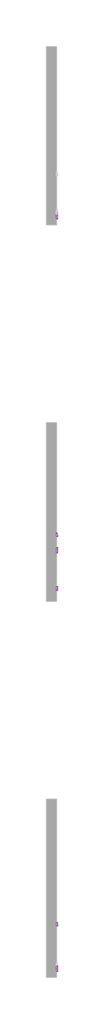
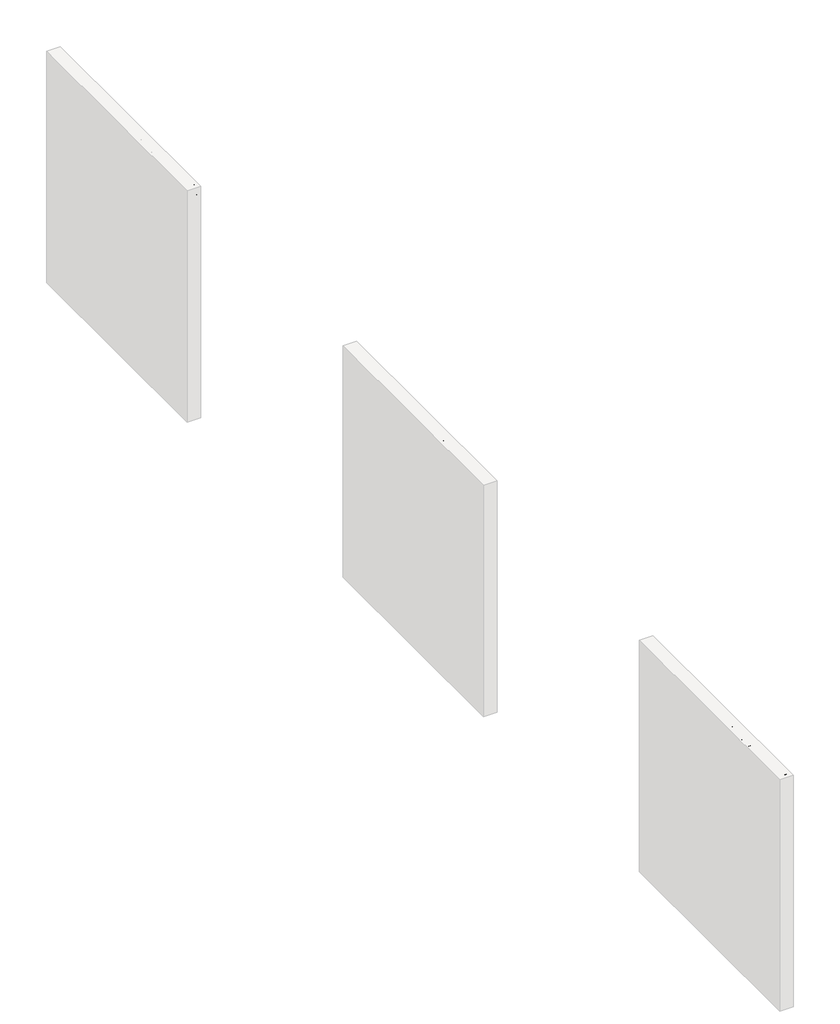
# One storey, part 5 of 9: 6 proxies.
"""IFC4 building model written with IfcOpenShell, lengths in millimetres."""

from ifc_helpers import new_model, si_unit, frame, origin, place, context, project, spatial, polyline, outline, extrude, element, save

model = new_model("IFC4")

# Units and contexts
model_context = context("Model", 3, world=origin())
ifc_project = project(units=[si_unit("LENGTHUNIT", "METRE", prefix="MILLI")], contexts=[model_context])

# Site, building, storey
site = spatial("IfcSite", under=ifc_project)
building = spatial("IfcBuilding", under=site)
storey = spatial("IfcBuildingStorey", under=building, Name="PORTOBELLO - SHOWROOM", Elevation=0.0)

# Proxies
placement = place(None, origin())
element("IfcBuildingElementProxy", 1, Name="10mm Arial", ObjectType="10mm Arial", at=placement, inside=storey, context=model_context, shape_type="SweptSolid", body=[
    extrude(outline(polyline([(3760.313312, 2567.3783476), (3763.6610381, 2589.5922887), (3773.7042166, 2606.3983645), (3789.0387644, 2616.9749719), (3808.2605987, 2620.5005077), (3821.4369055, 2618.8450387), (3833.2520489, 2613.8786317), (3843.0622354, 2605.9507747), (3850.2236716, 2595.4109556), (3854.6014673, 2582.7680777), (3856.0607326, 2568.5310445), (3854.5248253, 2554.1039389), (3849.9171033, 2541.2832514), (3842.4920183, 2530.7250381), (3832.5040222, 2523.0853553), (3820.7900463, 2518.4500422), (3808.1870223, 2516.9049378), (3794.8083804, 2518.6125234), (3782.9257919, 2523.7352802), (3773.1401309, 2531.81029), (3766.0522711, 2542.3746346), (3760.313312, 2567.3783476)]), holes=[polyline([(3772.8703507, 2567.2557202), (3775.3811454, 2551.5410277), (3782.9135292, 2539.5664687), (3794.2350976, 2531.9880996), (3808.1134459, 2529.4619766), (3822.1941293, 2532.0126251), (3833.5340918, 2539.6645706), (3841.0112933, 2552.0070115), (3843.5036938, 2568.6291463), (3839.2362627, 2589.3531654), (3826.765063, 2603.0751638), (3808.3341751, 2607.9434689), (3794.8267745, 2605.5982212), (3783.3427249, 2598.562478), (3775.4884443, 2586.0452931), (3772.8703507, 2567.2557202)])]), frame((-17115.5080774, 0.0, 0.0), z_axis=(1.0, 0.0, 0.0), x_axis=(0.0, 1.0, 0.0)), (0.0, 0.0, 1.0), 20.0),
    extrude(outline(polyline([(3918.8459264, 2545.158275), (3931.4029652, 2543.5886452), (3927.9019549, 2532.420361), (3921.3229985, 2523.9805349), (3912.2853642, 2518.6738371), (3901.4083199, 2516.9049378), (3888.0511378, 2519.3728129), (3877.6063548, 2526.776438), (3870.8649172, 2538.7908508), (3868.6177714, 2555.0910889), (3872.4560068, 2575.949998), (3884.1546543, 2589.3531654), (3901.2366416, 2593.8168003), (3911.8469715, 2592.2839586), (3920.3297171, 2587.6854337), (3926.4150985, 2580.2664801), (3929.8333354, 2570.2723526), (3917.2762966, 2568.7027227), (3911.4514983, 2578.1082391), (3901.3347435, 2581.2597615), (3893.2198798, 2579.7085258), (3886.7788792, 2575.0548185), (3882.5758274, 2567.0472538), (3881.1748101, 2555.4344454), (3882.5451706, 2543.6652873), (3886.6562519, 2535.6301314), (3892.9807565, 2531.0040153), (3900.9913869, 2529.4619766), (3912.8249244, 2533.3124748), (3918.8459264, 2545.158275)])), frame((-17115.5080774, 0.0, 0.0), z_axis=(1.0, 0.0, 0.0), x_axis=(0.0, 1.0, 0.0)), (0.0, 0.0, 1.0), 20.0),
    extrude(outline(polyline([(3942.3903741, 2518.4745677), (3942.3903741, 2618.9308778), (3954.9474129, 2618.9308778), (3954.9474129, 2581.9955255), (3964.7392053, 2590.8614816), (3976.7996034, 2593.8168003), (3990.9017466, 2590.5917015), (3999.4611343, 2581.6766944), (4002.0363083, 2565.1710556), (4002.0363083, 2518.4745677), (3989.4792695, 2518.4745677), (3989.4792695, 2563.8712059), (3985.4816185, 2577.1149577), (3974.150853, 2581.2597615), (3963.8624199, 2578.4638583), (3956.9952893, 2570.8854892), (3954.9474129, 2557.6662629), (3954.9474129, 2518.4745677), (3942.3903741, 2518.4745677)])), frame((-17115.5080774, 0.0, 0.0), z_axis=(1.0, 0.0, 0.0), x_axis=(0.0, 1.0, 0.0)), (0.0, 0.0, 1.0), 20.0),
    extrude(outline(polyline([(4070.9528687, 2540.4493855), (4083.2646528, 2538.8797557), (4078.8286091, 2529.602998), (4071.7499464, 2522.6684224), (4062.1880802, 2518.345809), (4050.302426, 2516.9049378), (4035.5687521, 2519.391207), (4024.2318553, 2526.8500144), (4017.0029741, 2538.7969822), (4014.593347, 2554.7477324), (4017.0274996, 2571.2349771), (4024.3299572, 2583.5651553), (4035.5135698, 2591.253889), (4049.5911875, 2593.8168003), (4063.2304125, 2591.2600204), (4074.1289166, 2583.5896808), (4081.2750244, 2571.2840281), (4083.6570603, 2554.8213088), (4083.5834839, 2551.4367944), (4027.1503858, 2551.4367944), (4029.3239553, 2542.0374095), (4034.3731357, 2535.1273593), (4041.6602648, 2530.8783223), (4050.5476807, 2529.4619766), (4062.8594648, 2532.0862015), (4070.9528687, 2540.4493855)]), holes=[polyline([(4027.1503858, 2563.9938332), (4071.1000215, 2563.9938332), (4066.0723009, 2575.3736496), (4058.7514492, 2579.7882335), (4049.5421366, 2581.2597615), (4034.0788301, 2576.5631347), (4029.2135907, 2571.0724959), (4027.1503858, 2563.9938332)])]), frame((-17115.5080774, 0.0, 0.0), z_axis=(1.0, 0.0, 0.0), x_axis=(0.0, 1.0, 0.0)), (0.0, 0.0, 1.0), 20.0),
    extrude(outline(polyline([(4096.214099, 2518.4745677), (4096.214099, 2592.2471704), (4107.201508, 2592.2471704), (4107.201508, 2581.3333379), (4115.0006063, 2591.3887791), (4122.8487555, 2593.8168003), (4135.4548452, 2589.9417766), (4131.2609904, 2578.6845875), (4122.4318226, 2581.2597615), (4115.3317001, 2578.7826894), (4110.8067515, 2571.9155588), (4108.7711378, 2557.24933), (4108.7711378, 2518.4745677), (4096.214099, 2518.4745677)])), frame((-17115.5080774, 0.0, 0.0), z_axis=(1.0, 0.0, 0.0), x_axis=(0.0, 1.0, 0.0)), (0.0, 0.0, 1.0), 20.0),
    extrude(outline(polyline([(4184.1133704, 2518.4745677), (4184.1133704, 2618.9308778), (4205.6467299, 2618.9308778), (4226.2481216, 2548.1258565), (4230.4174509, 2533.3370003), (4234.9056112, 2549.3521298), (4255.1145955, 2618.9308778), (4276.7215313, 2618.9308778), (4276.7215313, 2518.4745677), (4264.1644926, 2518.4745677), (4264.1644926, 2606.373839), (4238.9277877, 2518.4745677), (4221.9316395, 2518.4745677), (4196.6704092, 2606.373839), (4196.6704092, 2518.4745677), (4184.1133704, 2518.4745677)])), frame((-17115.5080774, 0.0, 0.0), z_axis=(1.0, 0.0, 0.0), x_axis=(0.0, 1.0, 0.0)), (0.0, 0.0, 1.0), 20.0),
    extrude(outline(polyline([(-17095.5080774, 4309.6837581), (-17095.5080774, 4297.1267193), (-17115.5080774, 4297.1267193), (-17115.5080774, 4309.6837581), (-17095.5080774, 4309.6837581)])), frame((0.0, 0.0, 2606.373839), z_axis=(0.0, 0.0, 1.0), x_axis=(1.0, 0.0, 0.0)), (0.0, 0.0, 1.0), 12.5570388),
    extrude(outline(polyline([(-17095.5080774, 4309.6837581), (-17095.5080774, 4297.1267193), (-17115.5080774, 4297.1267193), (-17115.5080774, 4309.6837581), (-17095.5080774, 4309.6837581)])), frame((0.0, 0.0, 2518.4745677), z_axis=(0.0, 0.0, 1.0), x_axis=(1.0, 0.0, 0.0)), (0.0, 0.0, 1.0), 73.7726028),
    extrude(outline(polyline([(4320.671167, 2518.4745677), (4347.5020272, 2555.5815982), (4322.2407969, 2592.2471704), (4337.2994332, 2592.2471704), (4349.48859, 2574.5643092), (4355.2030236, 2566.2501761), (4360.1571678, 2573.0682557), (4374.0385818, 2592.2471704), (4389.1462691, 2592.2471704), (4362.6097145, 2555.5570728), (4388.1652504, 2518.4745677), (4373.0820886, 2518.4745677), (4357.6800957, 2540.792742), (4354.8841926, 2544.8884949), (4335.7788543, 2518.4745677), (4320.671167, 2518.4745677)])), frame((-17115.5080774, 0.0, 0.0), z_axis=(1.0, 0.0, 0.0), x_axis=(0.0, 1.0, 0.0)), (0.0, 0.0, 1.0), 20.0),
])
element("IfcBuildingElementProxy", 2, Name="10mm Arial", ObjectType="10mm Arial", at=placement, inside=storey, context=model_context, shape_type="SweptSolid", body=[
    extrude(outline(polyline([(9490.1362791, 2518.4745677), (9490.1362791, 2606.373839), (9457.1740523, 2606.373839), (9457.1740523, 2618.9308778), (9535.6555446, 2618.9308778), (9535.6555446, 2606.373839), (9502.6933178, 2606.373839), (9502.6933178, 2518.4745677), (9490.1362791, 2518.4745677)])), frame((-17115.5080774, 0.0, 0.0), z_axis=(1.0, 0.0, 0.0), x_axis=(0.0, 1.0, 0.0)), (0.0, 0.0, 1.0), 20.0),
    extrude(outline(polyline([(9599.8632155, 2540.4493855), (9612.1749996, 2538.8797557), (9607.7389559, 2529.602998), (9600.6602931, 2522.6684224), (9591.0984269, 2518.345809), (9579.2127728, 2516.9049378), (9564.4790989, 2519.391207), (9553.1422021, 2526.8500144), (9545.9133209, 2538.7969822), (9543.5036938, 2554.7477324), (9545.9378464, 2571.2349771), (9553.240304, 2583.5651553), (9564.4239166, 2591.253889), (9578.5015343, 2593.8168003), (9592.1407593, 2591.2600204), (9603.0392634, 2583.5896808), (9610.1853711, 2571.2840281), (9612.567407, 2554.8213088), (9612.4938306, 2551.4367944), (9556.0607326, 2551.4367944), (9558.234302, 2542.0374095), (9563.2834824, 2535.1273593), (9570.5706116, 2530.8783223), (9579.4580275, 2529.4619766), (9591.7698116, 2532.0862015), (9599.8632155, 2540.4493855)]), holes=[polyline([(9556.0607326, 2563.9938332), (9600.0103683, 2563.9938332), (9594.9826477, 2575.3736496), (9587.661796, 2579.7882335), (9578.4524834, 2581.2597615), (9562.9891768, 2576.5631347), (9558.1239374, 2571.0724959), (9556.0607326, 2563.9938332)])]), frame((-17115.5080774, 0.0, 0.0), z_axis=(1.0, 0.0, 0.0), x_axis=(0.0, 1.0, 0.0)), (0.0, 0.0, 1.0), 20.0),
    extrude(outline(polyline([(9625.1244458, 2518.4745677), (9625.1244458, 2592.2471704), (9636.1118547, 2592.2471704), (9636.1118547, 2581.3333379), (9643.910953, 2591.3887791), (9651.7591023, 2593.8168003), (9664.365192, 2589.9417766), (9660.1713372, 2578.6845875), (9651.3421693, 2581.2597615), (9644.2420468, 2578.7826894), (9639.7170983, 2571.9155588), (9637.6814846, 2557.24933), (9637.6814846, 2518.4745677), (9625.1244458, 2518.4745677)])), frame((-17115.5080774, 0.0, 0.0), z_axis=(1.0, 0.0, 0.0), x_axis=(0.0, 1.0, 0.0)), (0.0, 0.0, 1.0), 20.0),
    extrude(outline(polyline([(9672.2133412, 2518.4745677), (9672.2133412, 2592.2471704), (9683.2007501, 2592.2471704), (9683.2007501, 2581.3333379), (9690.9998484, 2591.3887791), (9698.8479977, 2593.8168003), (9711.4540874, 2589.9417766), (9707.2602326, 2578.6845875), (9698.4310647, 2581.2597615), (9691.3309422, 2578.7826894), (9686.8059937, 2571.9155588), (9684.77038, 2557.24933), (9684.77038, 2518.4745677), (9672.2133412, 2518.4745677)])), frame((-17115.5080774, 0.0, 0.0), z_axis=(1.0, 0.0, 0.0), x_axis=(0.0, 1.0, 0.0)), (0.0, 0.0, 1.0), 20.0),
    extrude(outline(polyline([(9766.391132, 2527.8923467), (9754.2142379, 2519.3820099), (9740.7620196, 2516.9049378), (9730.2681857, 2518.3948599), (9722.5273354, 2522.8646261), (9717.7540665, 2529.6520489), (9716.1629769, 2538.0949407), (9718.5664726, 2548.0277546), (9724.8817802, 2555.2382417), (9733.6741599, 2559.3585201), (9744.5389415, 2561.246981), (9766.3175556, 2565.563463), (9766.391132, 2568.3593662), (9762.9330412, 2577.6299925), (9749.0516273, 2581.2597615), (9736.3474357, 2578.8440031), (9730.2896455, 2570.2723526), (9717.7326067, 2571.8419824), (9723.1649975, 2584.1047156), (9734.1033555, 2591.2906772), (9750.670308, 2593.8168003), (9765.8883599, 2591.5849828), (9774.4845359, 2585.9809138), (9778.3350341, 2577.4583142), (9778.9481707, 2566.4709053), (9778.9481707, 2550.8481832), (9779.5858329, 2529.0327809), (9782.0874304, 2518.4745677), (9769.5303917, 2518.4745677), (9766.391132, 2527.8923467)]), holes=[polyline([(9766.391132, 2553.0064243), (9746.1330968, 2549.1559261), (9735.3296288, 2547.1203124), (9730.4367983, 2543.8093744), (9728.7200157, 2538.9778575), (9732.4601493, 2532.1843033), (9743.4352955, 2529.4619766), (9756.139487, 2532.4663462), (9764.3309928, 2539.738147), (9766.3175556, 2549.4502317), (9766.391132, 2553.0064243)])]), frame((-17115.5080774, 0.0, 0.0), z_axis=(1.0, 0.0, 0.0), x_axis=(0.0, 1.0, 0.0)), (0.0, 0.0, 1.0), 20.0),
    extrude(outline(polyline([(9843.3029944, 2545.158275), (9855.8600332, 2543.5886452), (9852.3590229, 2532.420361), (9845.7800665, 2523.9805349), (9836.7424322, 2518.6738371), (9825.8653879, 2516.9049378), (9812.5082057, 2519.3728129), (9802.0634228, 2526.776438), (9795.3219852, 2538.7908508), (9793.0748393, 2555.0910889), (9796.9130748, 2575.949998), (9808.6117223, 2589.3531654), (9825.6937096, 2593.8168003), (9836.3040395, 2592.2839586), (9844.7867851, 2587.6854337), (9850.8721665, 2580.2664801), (9854.2904033, 2570.2723526), (9841.7333646, 2568.7027227), (9835.9085663, 2578.1082391), (9825.7918115, 2581.2597615), (9817.6769478, 2579.7085258), (9811.2359472, 2575.0548185), (9807.0328954, 2567.0472538), (9805.6318781, 2555.4344454), (9807.0022385, 2543.6652873), (9811.1133198, 2535.6301314), (9817.4378245, 2531.0040153), (9825.4484549, 2529.4619766), (9837.2819924, 2533.3124748), (9843.3029944, 2545.158275)])), frame((-17115.5080774, 0.0, 0.0), z_axis=(1.0, 0.0, 0.0), x_axis=(0.0, 1.0, 0.0)), (0.0, 0.0, 1.0), 20.0),
    extrude(outline(polyline([(9863.7081824, 2555.360869), (9866.4243778, 2573.1479635), (9874.572964, 2585.64982), (9884.6406679, 2591.7750552), (9896.6949347, 2593.8168003), (9909.8865699, 2591.3305311), (9920.4233233, 2583.8717237), (9927.3303078, 2572.0289891), (9929.632636, 2556.3909386), (9925.5614085, 2534.0482388), (9913.7033456, 2521.4053609), (9896.6949347, 2516.9049378), (9883.3438839, 2519.3820099), (9872.8193932, 2526.8132262), (9865.9859851, 2538.9042811), (9863.7081824, 2555.360869)]), holes=[polyline([(9876.2652212, 2555.3853945), (9877.7183551, 2544.0209065), (9882.0777567, 2535.924437), (9888.638319, 2531.0775917), (9896.6949347, 2529.4619766), (9904.7147622, 2531.0867887), (9911.2630617, 2535.9612252), (9915.6224633, 2544.1649937), (9917.0755972, 2555.777802), (9915.6132663, 2566.8111961), (9911.2262735, 2574.7973011), (9904.6687769, 2579.6441464), (9896.6949347, 2581.2597615), (9888.638319, 2579.6502778), (9882.0777567, 2574.8218266), (9877.7183551, 2566.7437511), (9876.2652212, 2555.3853945)])]), frame((-17115.5080774, 0.0, 0.0), z_axis=(1.0, 0.0, 0.0), x_axis=(0.0, 1.0, 0.0)), (0.0, 0.0, 1.0), 20.0),
    extrude(outline(polyline([(9970.443012, 2528.9469418), (9972.0126418, 2518.1066857), (9962.6193882, 2516.9049378), (9952.0979631, 2518.9896025), (9946.8495133, 2524.4587815), (9945.3289344, 2538.7080774), (9945.3289344, 2579.6901317), (9935.9111553, 2579.6901317), (9935.9111553, 2592.2471704), (9945.3289344, 2592.2471704), (9945.3289344, 2610.1752863), (9957.8859732, 2617.5574517), (9957.8859732, 2592.2471704), (9970.443012, 2592.2471704), (9970.443012, 2579.6901317), (9957.8859732, 2579.6901317), (9957.8859732, 2539.0759594), (9958.5481608, 2532.6012363), (9960.6941391, 2530.3081052), (9964.973833, 2529.4619766), (9970.443012, 2528.9469418)])), frame((-17115.5080774, 0.0, 0.0), z_axis=(1.0, 0.0, 0.0), x_axis=(0.0, 1.0, 0.0)), (0.0, 0.0, 1.0), 20.0),
    extrude(outline(polyline([(10030.0889461, 2527.8923467), (10017.9120521, 2519.3820099), (10004.4598338, 2516.9049378), (9993.9659999, 2518.3948599), (9986.2251496, 2522.8646261), (9981.4518807, 2529.6520489), (9979.860791, 2538.0949407), (9982.2642867, 2548.0277546), (9988.5795943, 2555.2382417), (9997.371974, 2559.3585201), (10008.2367556, 2561.246981), (10030.0153697, 2565.563463), (10030.0889461, 2568.3593662), (10026.6308554, 2577.6299925), (10012.7494414, 2581.2597615), (10000.0452498, 2578.8440031), (9993.9874596, 2570.2723526), (9981.4304209, 2571.8419824), (9986.8628117, 2584.1047156), (9997.8011697, 2591.2906772), (10014.3681222, 2593.8168003), (10029.586174, 2591.5849828), (10038.18235, 2585.9809138), (10042.0328482, 2577.4583142), (10042.6459849, 2566.4709053), (10042.6459849, 2550.8481832), (10043.283647, 2529.0327809), (10045.7852446, 2518.4745677), (10033.2282058, 2518.4745677), (10030.0889461, 2527.8923467)]), holes=[polyline([(10030.0889461, 2553.0064243), (10009.8309109, 2549.1559261), (9999.027443, 2547.1203124), (9994.1346124, 2543.8093744), (9992.4178298, 2538.9778575), (9996.1579634, 2532.1843033), (10007.1331096, 2529.4619766), (10019.8373012, 2532.4663462), (10028.0288069, 2539.738147), (10030.0153697, 2549.4502317), (10030.0889461, 2553.0064243)])]), frame((-17115.5080774, 0.0, 0.0), z_axis=(1.0, 0.0, 0.0), x_axis=(0.0, 1.0, 0.0)), (0.0, 0.0, 1.0), 20.0),
    extrude(outline(polyline([(10100.7222892, 2518.4745677), (10100.7222892, 2618.9308778), (10122.2556486, 2618.9308778), (10142.8570404, 2548.1258565), (10147.0263696, 2533.3370003), (10151.51453, 2549.3521298), (10171.7235143, 2618.9308778), (10193.3304501, 2618.9308778), (10193.3304501, 2518.4745677), (10180.7734113, 2518.4745677), (10180.7734113, 2606.373839), (10155.5367065, 2518.4745677), (10138.5405583, 2518.4745677), (10113.279328, 2606.373839), (10113.279328, 2518.4745677), (10100.7222892, 2518.4745677)])), frame((-17115.5080774, 0.0, 0.0), z_axis=(1.0, 0.0, 0.0), x_axis=(0.0, 1.0, 0.0)), (0.0, 0.0, 1.0), 20.0),
    extrude(outline(polyline([(-17095.5080774, 10226.2926769), (-17095.5080774, 10213.7356381), (-17115.5080774, 10213.7356381), (-17115.5080774, 10226.2926769), (-17095.5080774, 10226.2926769)])), frame((0.0, 0.0, 2518.4745677), z_axis=(0.0, 0.0, 1.0), x_axis=(1.0, 0.0, 0.0)), (0.0, 0.0, 1.0), 73.7726028),
    extrude(outline(polyline([(-17095.5080774, 10226.2926769), (-17095.5080774, 10213.7356381), (-17115.5080774, 10213.7356381), (-17115.5080774, 10226.2926769), (-17095.5080774, 10226.2926769)])), frame((0.0, 0.0, 2606.373839), z_axis=(0.0, 0.0, 1.0), x_axis=(1.0, 0.0, 0.0)), (0.0, 0.0, 1.0), 12.5570388),
    extrude(outline(polyline([(10237.2800858, 2518.4745677), (10264.110946, 2555.5815982), (10238.8497156, 2592.2471704), (10253.908352, 2592.2471704), (10266.0975087, 2574.5643092), (10271.8119424, 2566.2501761), (10276.7660866, 2573.0682557), (10290.6475006, 2592.2471704), (10305.7551878, 2592.2471704), (10279.2186332, 2555.5570728), (10304.7741692, 2518.4745677), (10289.6910074, 2518.4745677), (10274.2890145, 2540.792742), (10271.4931113, 2544.8884949), (10252.3877731, 2518.4745677), (10237.2800858, 2518.4745677)])), frame((-17115.5080774, 0.0, 0.0), z_axis=(1.0, 0.0, 0.0), x_axis=(0.0, 1.0, 0.0)), (0.0, 0.0, 1.0), 20.0),
])
element("IfcBuildingElementProxy", 3, Name="10mm Arial", ObjectType="10mm Arial", at=placement, inside=storey, context=model_context, shape_type="SweptSolid", body=[
    extrude(outline(polyline([(9461.8829418, 2408.5886452), (9474.4399806, 2410.158275), (9480.0808379, 2398.1775847), (9490.7739412, 2394.4619766), (9500.939747, 2396.8532096), (9507.831403, 2403.2420935), (9511.9394186, 2414.1559261), (9513.7543031, 2428.7240531), (9513.6807267, 2431.1765997), (9503.6375483, 2421.6607188), (9489.8664989, 2418.0064243), (9478.4161718, 2420.2382417), (9468.8849625, 2426.933694), (9462.4562246, 2437.2773095), (9460.313312, 2450.4536163), (9462.5604578, 2464.0652501), (9469.3018954, 2474.7338279), (9479.4278473, 2481.6316153), (9491.8285362, 2483.9308778), (9509.7198639, 2478.682428), (9522.031648, 2463.7218935), (9526.2377655, 2435.6157091), (9522.0439108, 2405.1182917), (9516.8291835, 2395.1272299), (9509.5727111, 2387.8401007), (9500.5871934, 2383.3887285), (9490.18533, 2381.9049378), (9479.4493071, 2383.655443), (9470.883788, 2388.9069585), (9464.8934428, 2397.3283905), (9461.8829418, 2408.5886452)]), holes=[polyline([(9513.6807267, 2450.7479218), (9512.3256947, 2459.2582587), (9508.2605987, 2465.8065582), (9501.9514225, 2469.9820188), (9493.8641499, 2471.373839), (9485.4764404, 2469.8747199), (9478.7564627, 2465.3773625), (9474.3418787, 2458.4949035), (9472.8703507, 2449.8404796), (9474.262171, 2442.0812352), (9478.4376316, 2435.9222774), (9484.9920625, 2431.9031666), (9493.5207934, 2430.563463), (9508.0030813, 2435.9222774), (9512.2613154, 2442.3080957), (9513.6807267, 2450.7479218)])]), frame((-17115.5080774, 0.0, 0.0), z_axis=(1.0, 0.0, 0.0), x_axis=(0.0, 1.0, 0.0)), (0.0, 0.0, 1.0), 20.0),
    extrude(outline(polyline([(9532.5162849, 2383.4745677), (9559.3471451, 2420.5815982), (9534.0859147, 2457.2471704), (9549.1445511, 2457.2471704), (9561.3337079, 2439.5643092), (9567.0481415, 2431.2501761), (9572.0022857, 2438.0682557), (9585.8836997, 2457.2471704), (9600.9913869, 2457.2471704), (9574.4548323, 2420.5570728), (9600.0103683, 2383.4745677), (9584.9272065, 2383.4745677), (9569.5252136, 2405.792742), (9566.7293104, 2409.8884949), (9547.6239722, 2383.4745677), (9532.5162849, 2383.4745677)])), frame((-17115.5080774, 0.0, 0.0), z_axis=(1.0, 0.0, 0.0), x_axis=(0.0, 1.0, 0.0)), (0.0, 0.0, 1.0), 20.0),
    extrude(outline(polyline([(9607.8585175, 2410.158275), (9620.4155563, 2411.7279049), (9627.3440005, 2398.5086785), (9640.3057095, 2394.4619766), (9648.9141482, 2395.8537968), (9655.5605496, 2400.0292574), (9661.2259323, 2413.8125695), (9655.6096005, 2426.798804), (9641.3357791, 2431.9368892), (9632.5311367, 2430.563463), (9633.9290882, 2443.1205018), (9635.9401765, 2442.973349), (9650.1894724, 2446.5785926), (9654.9351502, 2451.152592), (9656.5170427, 2457.6641034), (9651.9307805, 2467.4865526), (9640.1095058, 2471.373839), (9628.1410782, 2467.4497644), (9621.9851861, 2455.6775406), (9609.4281474, 2457.2471704), (9613.1253614, 2468.5227536), (9619.7043178, 2476.9411199), (9628.7051639, 2482.1834383), (9639.6680474, 2483.9308778), (9654.8125228, 2480.4850498), (9665.4075243, 2471.0672707), (9669.0740815, 2458.3998673), (9665.5914653, 2446.8238472), (9655.2907694, 2438.5097141), (9668.9759796, 2429.9258009), (9673.782971, 2413.5918403), (9671.3794753, 2401.3536326), (9664.1689882, 2391.1265132), (9653.2858125, 2384.2103317), (9639.8642511, 2381.9049378), (9627.7241453, 2383.8731065), (9617.8403823, 2389.7776125), (9610.9671204, 2398.8091155), (9607.8585175, 2410.158275)])), frame((-17115.5080774, 0.0, 0.0), z_axis=(1.0, 0.0, 0.0), x_axis=(0.0, 1.0, 0.0)), (0.0, 0.0, 1.0), 20.0),
    extrude(outline(polyline([(9684.77038, 2469.8042092), (9684.77038, 2482.361248), (9750.6948335, 2482.361248), (9750.6948335, 2472.2077049), (9731.9941654, 2445.1929037), (9717.6835558, 2410.7714117), (9713.0237172, 2383.4745677), (9700.4666784, 2383.4745677), (9705.4576108, 2411.8014813), (9719.1550838, 2443.8194776), (9738.1377947, 2469.8042092), (9684.77038, 2469.8042092)])), frame((-17115.5080774, 0.0, 0.0), z_axis=(1.0, 0.0, 0.0), x_axis=(0.0, 1.0, 0.0)), (0.0, 0.0, 1.0), 20.0),
])
element("IfcBuildingElementProxy", 4, Name="10mm Arial", ObjectType="10mm Arial", at=placement, inside=storey, context=model_context, shape_type="SweptSolid", body=[
    extrude(outline(polyline([(15160.313312, 2567.3783476), (15163.6610381, 2589.5922887), (15173.7042166, 2606.3983645), (15189.0387644, 2616.9749719), (15208.2605987, 2620.5005077), (15221.4369055, 2618.8450387), (15233.2520489, 2613.8786317), (15243.0622354, 2605.9507747), (15250.2236716, 2595.4109556), (15254.6014673, 2582.7680777), (15256.0607326, 2568.5310445), (15254.5248253, 2554.1039389), (15249.9171033, 2541.2832514), (15242.4920183, 2530.7250381), (15232.5040222, 2523.0853553), (15220.7900463, 2518.4500422), (15208.1870223, 2516.9049378), (15194.8083804, 2518.6125234), (15182.9257919, 2523.7352802), (15173.1401309, 2531.81029), (15166.0522711, 2542.3746346), (15160.313312, 2567.3783476)]), holes=[polyline([(15172.8703507, 2567.2557202), (15175.3811454, 2551.5410277), (15182.9135292, 2539.5664687), (15194.2350976, 2531.9880996), (15208.1134459, 2529.4619766), (15222.1941293, 2532.0126251), (15233.5340918, 2539.6645706), (15241.0112933, 2552.0070115), (15243.5036938, 2568.6291463), (15239.2362627, 2589.3531654), (15226.765063, 2603.0751638), (15208.3341751, 2607.9434689), (15194.8267745, 2605.5982212), (15183.3427249, 2598.562478), (15175.4884443, 2586.0452931), (15172.8703507, 2567.2557202)])]), frame((-17115.5080774, 0.0, 0.0), z_axis=(1.0, 0.0, 0.0), x_axis=(0.0, 1.0, 0.0)), (0.0, 0.0, 1.0), 20.0),
    extrude(outline(polyline([(-17095.5080774, 15284.3140698), (-17095.5080774, 15271.7570311), (-17115.5080774, 15271.7570311), (-17115.5080774, 15284.3140698), (-17095.5080774, 15284.3140698)])), frame((0.0, 0.0, 2518.4745677), z_axis=(0.0, 0.0, 1.0), x_axis=(1.0, 0.0, 0.0)), (0.0, 0.0, 1.0), 100.4563101),
    extrude(outline(polyline([(-17095.5080774, 15315.7066667), (-17095.5080774, 15303.149628), (-17115.5080774, 15303.149628), (-17115.5080774, 15315.7066667), (-17095.5080774, 15315.7066667)])), frame((0.0, 0.0, 2518.4745677), z_axis=(0.0, 0.0, 1.0), x_axis=(1.0, 0.0, 0.0)), (0.0, 0.0, 1.0), 73.7726028),
    extrude(outline(polyline([(-17095.5080774, 15315.7066667), (-17095.5080774, 15303.149628), (-17115.5080774, 15303.149628), (-17115.5080774, 15315.7066667), (-17095.5080774, 15315.7066667)])), frame((0.0, 0.0, 2606.373839), z_axis=(0.0, 0.0, 1.0), x_axis=(1.0, 0.0, 0.0)), (0.0, 0.0, 1.0), 12.5570388),
    extrude(outline(polyline([(15352.69107, 2518.4745677), (15326.6940757, 2592.2471704), (15339.962353, 2592.2471704), (15355.7077024, 2548.0522801), (15360.4411174, 2533.1898475), (15365.0764305, 2547.2184142), (15380.8953563, 2592.2471704), (15394.188159, 2592.2471704), (15368.5590467, 2518.4745677), (15352.69107, 2518.4745677)])), frame((-17115.5080774, 0.0, 0.0), z_axis=(1.0, 0.0, 0.0), x_axis=(0.0, 1.0, 0.0)), (0.0, 0.0, 1.0), 20.0),
    extrude(outline(polyline([(15456.8262001, 2540.4493855), (15469.1379842, 2538.8797557), (15464.7019405, 2529.602998), (15457.6232777, 2522.6684224), (15448.0614116, 2518.345809), (15436.1757574, 2516.9049378), (15421.4420835, 2519.391207), (15410.1051867, 2526.8500144), (15402.8763055, 2538.7969822), (15400.4666784, 2554.7477324), (15402.900831, 2571.2349771), (15410.2032886, 2583.5651553), (15421.3869012, 2591.253889), (15435.4645189, 2593.8168003), (15449.1037439, 2591.2600204), (15460.002248, 2583.5896808), (15467.1483557, 2571.2840281), (15469.5303917, 2554.8213088), (15469.4568153, 2551.4367944), (15413.0237172, 2551.4367944), (15415.1972867, 2542.0374095), (15420.246467, 2535.1273593), (15427.5335962, 2530.8783223), (15436.4210121, 2529.4619766), (15448.7327962, 2532.0862015), (15456.8262001, 2540.4493855)]), holes=[polyline([(15413.0237172, 2563.9938332), (15456.9733529, 2563.9938332), (15451.9456323, 2575.3736496), (15444.6247806, 2579.7882335), (15435.415468, 2581.2597615), (15419.9521614, 2576.5631347), (15415.0869221, 2571.0724959), (15413.0237172, 2563.9938332)])]), frame((-17115.5080774, 0.0, 0.0), z_axis=(1.0, 0.0, 0.0), x_axis=(0.0, 1.0, 0.0)), (0.0, 0.0, 1.0), 20.0),
    extrude(outline(polyline([(15522.8978064, 2518.4745677), (15522.8978064, 2618.9308778), (15544.4311659, 2618.9308778), (15565.0325576, 2548.1258565), (15569.2018869, 2533.3370003), (15573.6900472, 2549.3521298), (15593.8990315, 2618.9308778), (15615.5059673, 2618.9308778), (15615.5059673, 2518.4745677), (15602.9489286, 2518.4745677), (15602.9489286, 2606.373839), (15577.7122237, 2518.4745677), (15560.7160755, 2518.4745677), (15535.4548452, 2606.373839), (15535.4548452, 2518.4745677), (15522.8978064, 2518.4745677)])), frame((-17115.5080774, 0.0, 0.0), z_axis=(1.0, 0.0, 0.0), x_axis=(0.0, 1.0, 0.0)), (0.0, 0.0, 1.0), 20.0),
    extrude(outline(polyline([(-17095.5080774, 15648.4681941), (-17095.5080774, 15635.9111553), (-17115.5080774, 15635.9111553), (-17115.5080774, 15648.4681941), (-17095.5080774, 15648.4681941)])), frame((0.0, 0.0, 2518.4745677), z_axis=(0.0, 0.0, 1.0), x_axis=(1.0, 0.0, 0.0)), (0.0, 0.0, 1.0), 73.7726028),
    extrude(outline(polyline([(-17095.5080774, 15648.4681941), (-17095.5080774, 15635.9111553), (-17115.5080774, 15635.9111553), (-17115.5080774, 15648.4681941), (-17095.5080774, 15648.4681941)])), frame((0.0, 0.0, 2606.373839), z_axis=(0.0, 0.0, 1.0), x_axis=(1.0, 0.0, 0.0)), (0.0, 0.0, 1.0), 12.5570388),
    extrude(outline(polyline([(15659.455603, 2518.4745677), (15686.2864632, 2555.5815982), (15661.0252329, 2592.2471704), (15676.0838692, 2592.2471704), (15688.273026, 2574.5643092), (15693.9874596, 2566.2501761), (15698.9416039, 2573.0682557), (15712.8230178, 2592.2471704), (15727.9307051, 2592.2471704), (15701.3941505, 2555.5570728), (15726.9496864, 2518.4745677), (15711.8665246, 2518.4745677), (15696.4645317, 2540.792742), (15693.6686286, 2544.8884949), (15674.5632903, 2518.4745677), (15659.455603, 2518.4745677)])), frame((-17115.5080774, 0.0, 0.0), z_axis=(1.0, 0.0, 0.0), x_axis=(0.0, 1.0, 0.0)), (0.0, 0.0, 1.0), 20.0),
])
element("IfcBuildingElementProxy", 5, Name="10mm Arial Narrow", ObjectType="10mm Arial Narrow", at=placement, inside=storey, context=model_context, shape_type="SweptSolid", body=[
    extrude(outline(polyline([(4446.9277964, 2518.4745677), (4446.9277964, 2615.7916181), (4477.1676964, 2615.7916181), (4492.9130458, 2613.9767336), (4503.9985566, 2604.8164719), (4508.1433604, 2588.3721467), (4506.4173807, 2576.7041561), (4501.2394416, 2567.402873), (4491.8247282, 2561.314426), (4477.3884256, 2559.2849437), (4456.3455754, 2559.2849437), (4456.3455754, 2518.4745677), (4446.9277964, 2518.4745677)]), holes=[polyline([(4456.3455754, 2570.2723526), (4478.5411225, 2570.2723526), (4493.869539, 2574.6501483), (4498.7255813, 2587.857112), (4496.3343483, 2597.6795612), (4490.558601, 2603.2836303), (4478.3203933, 2604.8042092), (4456.3455754, 2604.8042092), (4456.3455754, 2570.2723526)])]), frame((-17115.5080774, 0.0, 0.0), z_axis=(1.0, 0.0, 0.0), x_axis=(0.0, 1.0, 0.0)), (0.0, 0.0, 1.0), 20.0),
    extrude(outline(polyline([(4515.9915096, 2553.7912392), (4517.8799705, 2569.8216971), (4523.5453532, 2581.3701261), (4532.104741, 2588.350687), (4542.675217, 2590.6775406), (4553.1230656, 2588.350687), (4561.7069789, 2581.3701261), (4567.445938, 2570.0056381), (4569.3589244, 2554.5270032), (4567.4796605, 2537.9447223), (4561.8418689, 2526.2123523), (4553.2916782, 2519.2317914), (4542.675217, 2516.9049378), (4532.1813831, 2519.2379228), (4523.6066669, 2526.2368778), (4517.8952989, 2537.7914381), (4515.9915096, 2553.7912392)]), holes=[polyline([(4525.4092887, 2553.8157647), (4526.6692845, 2541.6879216), (4530.449272, 2533.1162711), (4536.093195, 2528.0211054), (4542.9449971, 2526.3227169), (4549.4381143, 2528.0364339), (4554.9379502, 2533.1775847), (4558.6903465, 2541.7645636), (4559.9411453, 2553.8157647), (4558.6811495, 2565.9068196), (4554.901162, 2574.4662073), (4549.257239, 2579.561373), (4542.4054369, 2581.2597615), (4535.8663344, 2579.5521759), (4530.3756956, 2574.4294191), (4526.6508904, 2565.8608343), (4525.4092887, 2553.8157647)])]), frame((-17115.5080774, 0.0, 0.0), z_axis=(1.0, 0.0, 0.0), x_axis=(0.0, 1.0, 0.0)), (0.0, 0.0, 1.0), 20.0),
    extrude(outline(polyline([(4638.4226376, 2526.3227169), (4639.9922674, 2516.9049378), (4632.8798822, 2516.9049378), (4624.8845802, 2518.9528143), (4620.7152509, 2524.5568833), (4619.5870794, 2538.7080774), (4619.5870794, 2579.6901317), (4611.7389302, 2579.6901317), (4611.7389302, 2582.8293914), (4610.1693004, 2578.1205018), (4602.8607114, 2579.6901317), (4596.9868622, 2577.4460515), (4593.2467286, 2571.1797948), (4591.3337422, 2556.2928368), (4591.3337422, 2518.4745677), (4581.9159631, 2518.4745677), (4581.9159631, 2589.1079107), (4591.3337422, 2589.1079107), (4591.3337422, 2579.7391826), (4597.3670069, 2588.5192995), (4603.5474244, 2590.6775406), (4611.7389302, 2589.1079107), (4619.5870794, 2589.1079107), (4619.5870794, 2604.8042092), (4629.0048585, 2612.6523584), (4629.0048585, 2589.1079107), (4638.4226376, 2589.1079107), (4638.4226376, 2579.6901317), (4629.0048585, 2579.6901317), (4629.0048585, 2536.5498364), (4629.8387244, 2528.8243145), (4634.3023592, 2526.3227169), (4638.4226376, 2526.3227169)])), frame((-17115.5080774, 0.0, 0.0), z_axis=(1.0, 0.0, 0.0), x_axis=(0.0, 1.0, 0.0)), (0.0, 0.0, 1.0), 20.0),
    extrude(outline(polyline([(4644.701157, 2553.7912392), (4646.5896179, 2569.8216971), (4652.2550006, 2581.3701261), (4660.8143884, 2588.350687), (4671.3848644, 2590.6775406), (4681.832713, 2588.350687), (4690.4166262, 2581.3701261), (4696.1555854, 2570.0056381), (4698.0685717, 2554.5270032), (4696.1893079, 2537.9447223), (4690.5515163, 2526.2123523), (4682.0013256, 2519.2317914), (4671.3848644, 2516.9049378), (4660.8910304, 2519.2379228), (4652.3163143, 2526.2368778), (4646.6049463, 2537.7914381), (4644.701157, 2553.7912392)]), holes=[polyline([(4654.1189361, 2553.8157647), (4655.3789319, 2541.6879216), (4659.1589194, 2533.1162711), (4664.8028423, 2528.0211054), (4671.6546445, 2526.3227169), (4678.1477617, 2528.0364339), (4683.6475975, 2533.1775847), (4687.3999939, 2541.7645636), (4688.6507927, 2553.8157647), (4687.3907968, 2565.9068196), (4683.6108093, 2574.4662073), (4677.9668864, 2579.561373), (4671.1150842, 2581.2597615), (4664.5759818, 2579.5521759), (4659.085343, 2574.4294191), (4655.3605378, 2565.8608343), (4654.1189361, 2553.8157647)])]), frame((-17115.5080774, 0.0, 0.0), z_axis=(1.0, 0.0, 0.0), x_axis=(0.0, 1.0, 0.0)), (0.0, 0.0, 1.0), 20.0),
    extrude(outline(polyline([(4720.0433896, 2518.4745677), (4710.6256105, 2518.4745677), (4710.6256105, 2615.7916181), (4720.0433896, 2615.7916181), (4720.0433896, 2581.5785926), (4727.192563, 2588.4211977), (4736.0830446, 2590.6775406), (4748.5297187, 2586.6185759), (4757.4937767, 2574.3190545), (4760.8537656, 2554.3307995), (4758.9867645, 2538.4321659), (4753.3857611, 2526.641548), (4745.2954229, 2519.3390904), (4735.9604172, 2516.9049378), (4726.9350456, 2519.4310609), (4720.0433896, 2526.9358536), (4720.0433896, 2518.4745677)]), holes=[polyline([(4720.0433896, 2554.3307995), (4722.0544778, 2537.6657451), (4727.744386, 2529.2289847), (4735.9113663, 2526.3227169), (4741.6533911, 2528.0517623), (4746.7148342, 2533.2388984), (4751.4359865, 2553.938392), (4746.8865125, 2574.6501483), (4741.818938, 2579.6073582), (4735.7151626, 2581.2597615), (4729.9394153, 2579.5307161), (4724.8258555, 2574.34358), (4720.0433896, 2554.3307995)])]), frame((-17115.5080774, 0.0, 0.0), z_axis=(1.0, 0.0, 0.0), x_axis=(0.0, 1.0, 0.0)), (0.0, 0.0, 1.0), 20.0),
    extrude(outline(polyline([(4811.0819207, 2540.4493855), (4820.4996997, 2538.8797557), (4811.3026499, 2522.4476932), (4794.8215365, 2516.9049378), (4783.6195297, 2519.2379228), (4774.7842305, 2526.2368778), (4769.0452713, 2537.6442853), (4767.132285, 2553.202628), (4769.0544684, 2569.3066623), (4774.8210187, 2581.0758205), (4783.5306249, 2588.2771106), (4794.2819762, 2590.6775406), (4804.6041319, 2588.359884), (4813.0562207, 2581.4069143), (4818.6940123, 2570.0638861), (4820.5732761, 2554.5760541), (4820.4996997, 2551.4367944), (4776.550064, 2551.4367944), (4782.3503368, 2532.6502872), (4788.0800989, 2527.9046095), (4794.9441638, 2526.3227169), (4804.7788758, 2529.854384), (4811.0819207, 2540.4493855)]), holes=[polyline([(4777.1877262, 2560.8545735), (4811.0819207, 2560.8545735), (4806.9616423, 2574.6378856), (4801.3330478, 2579.6042925), (4794.3555526, 2581.2597615), (4782.5588033, 2575.7415316), (4777.1877262, 2560.8545735)])]), frame((-17115.5080774, 0.0, 0.0), z_axis=(1.0, 0.0, 0.0), x_axis=(0.0, 1.0, 0.0)), (0.0, 0.0, 1.0), 20.0),
    extrude(outline(polyline([(-17095.5080774, 4842.4745176), (-17095.5080774, 4833.0567385), (-17115.5080774, 4833.0567385), (-17115.5080774, 4842.4745176), (-17095.5080774, 4842.4745176)])), frame((0.0, 0.0, 2518.4745677), z_axis=(0.0, 0.0, 1.0), x_axis=(1.0, 0.0, 0.0)), (0.0, 0.0, 1.0), 97.3170505),
    extrude(outline(polyline([(-17095.5080774, 4867.5885951), (-17095.5080774, 4858.170816), (-17115.5080774, 4858.170816), (-17115.5080774, 4867.5885951), (-17095.5080774, 4867.5885951)])), frame((0.0, 0.0, 2518.4745677), z_axis=(0.0, 0.0, 1.0), x_axis=(1.0, 0.0, 0.0)), (0.0, 0.0, 1.0), 97.3170505),
    extrude(outline(polyline([(4878.576004, 2553.7912392), (4880.464465, 2569.8216971), (4886.1298477, 2581.3701261), (4894.6892354, 2588.350687), (4905.2597114, 2590.6775406), (4915.7075601, 2588.350687), (4924.2914733, 2581.3701261), (4930.0304324, 2570.0056381), (4931.9434188, 2554.5270032), (4930.064155, 2537.9447223), (4924.4263634, 2526.2123523), (4915.8761727, 2519.2317914), (4905.2597114, 2516.9049378), (4894.7658775, 2519.2379228), (4886.1911613, 2526.2368778), (4880.4797934, 2537.7914381), (4878.576004, 2553.7912392)]), holes=[polyline([(4887.9937831, 2553.8157647), (4889.253779, 2541.6879216), (4893.0337665, 2533.1162711), (4898.6776894, 2528.0211054), (4905.5294916, 2526.3227169), (4912.0226088, 2528.0364339), (4917.5224446, 2533.1775847), (4921.274841, 2541.7645636), (4922.5256397, 2553.8157647), (4921.2656439, 2565.9068196), (4917.4856564, 2574.4662073), (4911.8417335, 2579.561373), (4904.9899313, 2581.2597615), (4898.4508288, 2579.5521759), (4892.9601901, 2574.4294191), (4889.2353849, 2565.8608343), (4887.9937831, 2553.8157647)])]), frame((-17115.5080774, 0.0, 0.0), z_axis=(1.0, 0.0, 0.0), x_axis=(0.0, 1.0, 0.0)), (0.0, 0.0, 1.0), 20.0),
])
element("IfcBuildingElementProxy", 6, Name="10mm Arial Narrow", ObjectType="10mm Arial Narrow", at=placement, inside=storey, context=model_context, shape_type="SweptSolid", body=[
    extrude(outline(polyline([(10346.9277964, 2518.4745677), (10346.9277964, 2615.7916181), (10377.1676964, 2615.7916181), (10392.9130458, 2613.9767336), (10403.9985566, 2604.8164719), (10408.1433604, 2588.3721467), (10406.4173807, 2576.7041561), (10401.2394416, 2567.402873), (10391.8247282, 2561.314426), (10377.3884256, 2559.2849437), (10356.3455754, 2559.2849437), (10356.3455754, 2518.4745677), (10346.9277964, 2518.4745677)]), holes=[polyline([(10356.3455754, 2570.2723526), (10378.5411225, 2570.2723526), (10393.869539, 2574.6501483), (10398.7255813, 2587.857112), (10396.3343483, 2597.6795612), (10390.558601, 2603.2836303), (10378.3203933, 2604.8042092), (10356.3455754, 2604.8042092), (10356.3455754, 2570.2723526)])]), frame((-17115.5080774, 0.0, 0.0), z_axis=(1.0, 0.0, 0.0), x_axis=(0.0, 1.0, 0.0)), (0.0, 0.0, 1.0), 20.0),
    extrude(outline(polyline([(10415.9915096, 2553.7912392), (10417.8799705, 2569.8216971), (10423.5453532, 2581.3701261), (10432.104741, 2588.350687), (10442.675217, 2590.6775406), (10453.1230656, 2588.350687), (10461.7069789, 2581.3701261), (10467.445938, 2570.0056381), (10469.3589244, 2554.5270032), (10467.4796605, 2537.9447223), (10461.8418689, 2526.2123523), (10453.2916782, 2519.2317914), (10442.675217, 2516.9049378), (10432.1813831, 2519.2379228), (10423.6066669, 2526.2368778), (10417.8952989, 2537.7914381), (10415.9915096, 2553.7912392)]), holes=[polyline([(10425.4092887, 2553.8157647), (10426.6692845, 2541.6879216), (10430.449272, 2533.1162711), (10436.093195, 2528.0211054), (10442.9449971, 2526.3227169), (10449.4381143, 2528.0364339), (10454.9379502, 2533.1775847), (10458.6903465, 2541.7645636), (10459.9411453, 2553.8157647), (10458.6811495, 2565.9068196), (10454.901162, 2574.4662073), (10449.257239, 2579.561373), (10442.4054369, 2581.2597615), (10435.8663344, 2579.5521759), (10430.3756956, 2574.4294191), (10426.6508904, 2565.8608343), (10425.4092887, 2553.8157647)])]), frame((-17115.5080774, 0.0, 0.0), z_axis=(1.0, 0.0, 0.0), x_axis=(0.0, 1.0, 0.0)), (0.0, 0.0, 1.0), 20.0),
    extrude(outline(polyline([(10538.4226376, 2526.3227169), (10539.9922674, 2516.9049378), (10532.8798822, 2516.9049378), (10524.8845802, 2518.9528143), (10520.7152509, 2524.5568833), (10519.5870794, 2538.7080774), (10519.5870794, 2579.6901317), (10511.7389302, 2579.6901317), (10511.7389302, 2582.8293914), (10510.1693004, 2578.1205018), (10502.8607114, 2579.6901317), (10496.9868622, 2577.4460515), (10493.2467286, 2571.1797948), (10491.3337422, 2556.2928368), (10491.3337422, 2518.4745677), (10481.9159631, 2518.4745677), (10481.9159631, 2589.1079107), (10491.3337422, 2589.1079107), (10491.3337422, 2579.7391826), (10497.3670069, 2588.5192995), (10503.5474244, 2590.6775406), (10511.7389302, 2589.1079107), (10519.5870794, 2589.1079107), (10519.5870794, 2604.8042092), (10529.0048585, 2612.6523584), (10529.0048585, 2589.1079107), (10538.4226376, 2589.1079107), (10538.4226376, 2579.6901317), (10529.0048585, 2579.6901317), (10529.0048585, 2536.5498364), (10529.8387244, 2528.8243145), (10534.3023592, 2526.3227169), (10538.4226376, 2526.3227169)])), frame((-17115.5080774, 0.0, 0.0), z_axis=(1.0, 0.0, 0.0), x_axis=(0.0, 1.0, 0.0)), (0.0, 0.0, 1.0), 20.0),
    extrude(outline(polyline([(10544.701157, 2553.7912392), (10546.5896179, 2569.8216971), (10552.2550006, 2581.3701261), (10560.8143884, 2588.350687), (10571.3848644, 2590.6775406), (10581.832713, 2588.350687), (10590.4166262, 2581.3701261), (10596.1555854, 2570.0056381), (10598.0685717, 2554.5270032), (10596.1893079, 2537.9447223), (10590.5515163, 2526.2123523), (10582.0013256, 2519.2317914), (10571.3848644, 2516.9049378), (10560.8910304, 2519.2379228), (10552.3163143, 2526.2368778), (10546.6049463, 2537.7914381), (10544.701157, 2553.7912392)]), holes=[polyline([(10554.1189361, 2553.8157647), (10555.3789319, 2541.6879216), (10559.1589194, 2533.1162711), (10564.8028423, 2528.0211054), (10571.6546445, 2526.3227169), (10578.1477617, 2528.0364339), (10583.6475975, 2533.1775847), (10587.3999939, 2541.7645636), (10588.6507927, 2553.8157647), (10587.3907968, 2565.9068196), (10583.6108093, 2574.4662073), (10577.9668864, 2579.561373), (10571.1150842, 2581.2597615), (10564.5759818, 2579.5521759), (10559.085343, 2574.4294191), (10555.3605378, 2565.8608343), (10554.1189361, 2553.8157647)])]), frame((-17115.5080774, 0.0, 0.0), z_axis=(1.0, 0.0, 0.0), x_axis=(0.0, 1.0, 0.0)), (0.0, 0.0, 1.0), 20.0),
    extrude(outline(polyline([(10620.0433896, 2518.4745677), (10610.6256105, 2518.4745677), (10610.6256105, 2615.7916181), (10620.0433896, 2615.7916181), (10620.0433896, 2581.5785926), (10627.192563, 2588.4211977), (10636.0830446, 2590.6775406), (10648.5297187, 2586.6185759), (10657.4937767, 2574.3190545), (10660.8537656, 2554.3307995), (10658.9867645, 2538.4321659), (10653.3857611, 2526.641548), (10645.2954229, 2519.3390904), (10635.9604172, 2516.9049378), (10626.9350456, 2519.4310609), (10620.0433896, 2526.9358536), (10620.0433896, 2518.4745677)]), holes=[polyline([(10620.0433896, 2554.3307995), (10622.0544778, 2537.6657451), (10627.744386, 2529.2289847), (10635.9113663, 2526.3227169), (10641.6533911, 2528.0517623), (10646.7148342, 2533.2388984), (10651.4359865, 2553.938392), (10646.8865125, 2574.6501483), (10641.818938, 2579.6073582), (10635.7151626, 2581.2597615), (10629.9394153, 2579.5307161), (10624.8258555, 2574.34358), (10620.0433896, 2554.3307995)])]), frame((-17115.5080774, 0.0, 0.0), z_axis=(1.0, 0.0, 0.0), x_axis=(0.0, 1.0, 0.0)), (0.0, 0.0, 1.0), 20.0),
    extrude(outline(polyline([(10711.0819207, 2540.4493855), (10720.4996997, 2538.8797557), (10711.3026499, 2522.4476932), (10694.8215365, 2516.9049378), (10683.6195297, 2519.2379228), (10674.7842305, 2526.2368778), (10669.0452713, 2537.6442853), (10667.132285, 2553.202628), (10669.0544684, 2569.3066623), (10674.8210187, 2581.0758205), (10683.5306249, 2588.2771106), (10694.2819762, 2590.6775406), (10704.6041319, 2588.359884), (10713.0562207, 2581.4069143), (10718.6940123, 2570.0638861), (10720.5732761, 2554.5760541), (10720.4996997, 2551.4367944), (10676.550064, 2551.4367944), (10682.3503368, 2532.6502872), (10688.0800989, 2527.9046095), (10694.9441638, 2526.3227169), (10704.7788758, 2529.854384), (10711.0819207, 2540.4493855)]), holes=[polyline([(10677.1877262, 2560.8545735), (10711.0819207, 2560.8545735), (10706.9616423, 2574.6378856), (10701.3330478, 2579.6042925), (10694.3555526, 2581.2597615), (10682.5588033, 2575.7415316), (10677.1877262, 2560.8545735)])]), frame((-17115.5080774, 0.0, 0.0), z_axis=(1.0, 0.0, 0.0), x_axis=(0.0, 1.0, 0.0)), (0.0, 0.0, 1.0), 20.0),
    extrude(outline(polyline([(-17095.5080774, 10742.4745176), (-17095.5080774, 10733.0567385), (-17115.5080774, 10733.0567385), (-17115.5080774, 10742.4745176), (-17095.5080774, 10742.4745176)])), frame((0.0, 0.0, 2518.4745677), z_axis=(0.0, 0.0, 1.0), x_axis=(1.0, 0.0, 0.0)), (0.0, 0.0, 1.0), 97.3170505),
    extrude(outline(polyline([(-17095.5080774, 10767.5885951), (-17095.5080774, 10758.170816), (-17115.5080774, 10758.170816), (-17115.5080774, 10767.5885951), (-17095.5080774, 10767.5885951)])), frame((0.0, 0.0, 2518.4745677), z_axis=(0.0, 0.0, 1.0), x_axis=(1.0, 0.0, 0.0)), (0.0, 0.0, 1.0), 97.3170505),
    extrude(outline(polyline([(10778.576004, 2553.7912392), (10780.464465, 2569.8216971), (10786.1298477, 2581.3701261), (10794.6892354, 2588.350687), (10805.2597114, 2590.6775406), (10815.7075601, 2588.350687), (10824.2914733, 2581.3701261), (10830.0304324, 2570.0056381), (10831.9434188, 2554.5270032), (10830.064155, 2537.9447223), (10824.4263634, 2526.2123523), (10815.8761727, 2519.2317914), (10805.2597114, 2516.9049378), (10794.7658775, 2519.2379228), (10786.1911613, 2526.2368778), (10780.4797934, 2537.7914381), (10778.576004, 2553.7912392)]), holes=[polyline([(10787.9937831, 2553.8157647), (10789.253779, 2541.6879216), (10793.0337665, 2533.1162711), (10798.6776894, 2528.0211054), (10805.5294916, 2526.3227169), (10812.0226088, 2528.0364339), (10817.5224446, 2533.1775847), (10821.274841, 2541.7645636), (10822.5256397, 2553.8157647), (10821.2656439, 2565.9068196), (10817.4856564, 2574.4662073), (10811.8417335, 2579.561373), (10804.9899313, 2581.2597615), (10798.4508288, 2579.5521759), (10792.9601901, 2574.4294191), (10789.2353849, 2565.8608343), (10787.9937831, 2553.8157647)])]), frame((-17115.5080774, 0.0, 0.0), z_axis=(1.0, 0.0, 0.0), x_axis=(0.0, 1.0, 0.0)), (0.0, 0.0, 1.0), 20.0),
])

save(model, "model.ifc")
